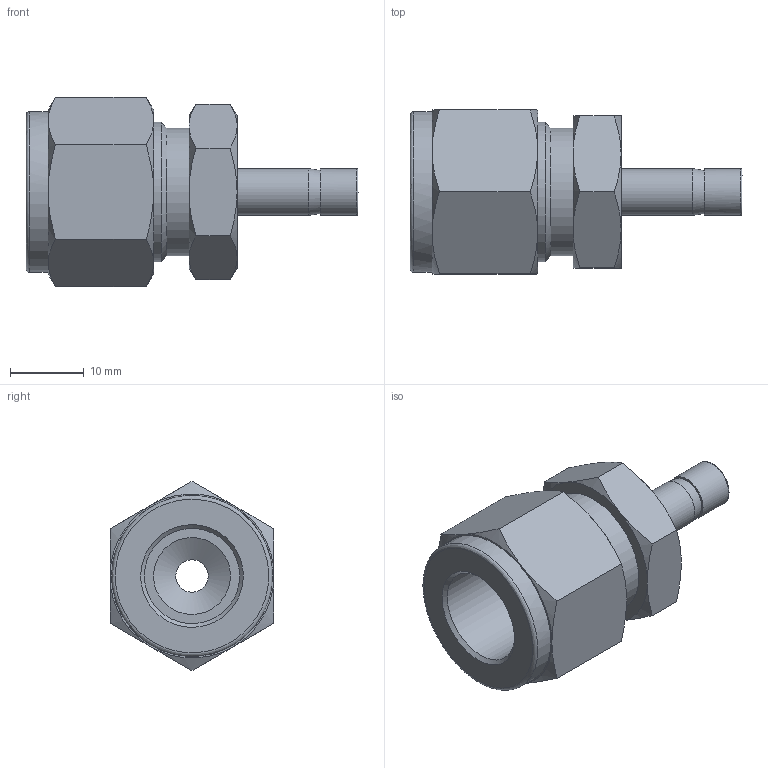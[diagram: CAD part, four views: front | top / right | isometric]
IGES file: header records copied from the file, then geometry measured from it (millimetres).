
Global section: file name: SR-8-4; native system: Autodesk Inventor 2016; preprocessor: unknown; author: DESIGNPC2; date: 20151112.112753; units: millimetre
Bounding box: 45 x 22.23 x 25.67 mm (x, y, z)
Volume: 7803.9 mm3; surface area: 4586.3 mm2
Topology: 1 solids, 1 shells, 59 faces, 166 edges, 116 vertices
Faces by surface type: bspline 59
